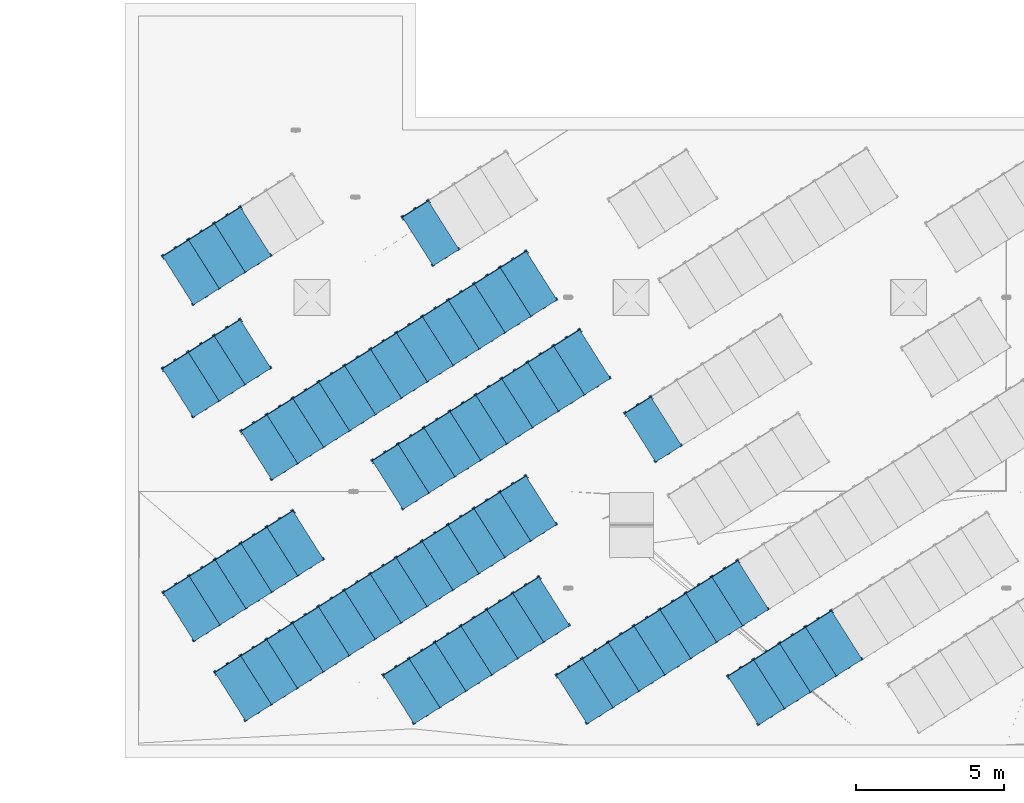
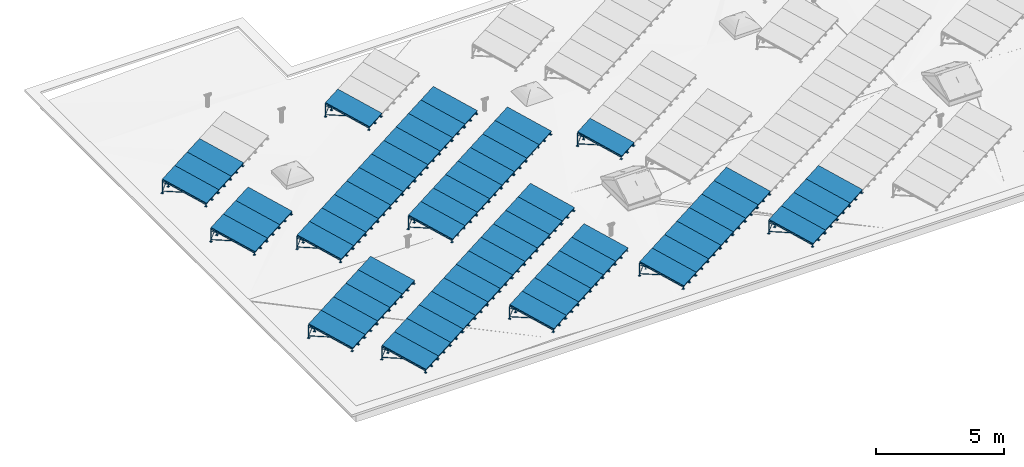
# One storey, part 1 of 9: 61 discrete accessories.
"""IFC2X3 building model written with IfcOpenShell, lengths in millimetres."""

from ifc_helpers import new_model, entity, si_unit, converted_unit, derived_unit, money_unit, direction, frame, origin_with_axes, place, context, subcontext, project, spatial, open_shell, faceted_brep, surface_model, source, transform, mapped, type_object, element, save


model = new_model("IFC2X3")

# Units and contexts
model_context = context("Model", 3, precision=0.01, world=origin_with_axes(), true_north=direction((0.0, 1.0)))
body_context = subcontext(model_context, "Body", "Model", "MODEL_VIEW")
ifc_project = project(units=[si_unit("LENGTHUNIT", "METRE", prefix="MILLI"), si_unit("AREAUNIT", "SQUARE_METRE"), si_unit("VOLUMEUNIT", "CUBIC_METRE"), converted_unit("PLANEANGLEUNIT", "DEGREE", entity("IfcPlaneAngleMeasure", 0.0174532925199), si_unit("PLANEANGLEUNIT", "RADIAN"), dimensions=[0, 0, 0, 0, 0, 0, 0]), si_unit("SOLIDANGLEUNIT", "STERADIAN"), money_unit("EUR"), converted_unit("TIMEUNIT", "Year", entity("IfcTimeMeasure", 31556926.0), si_unit("TIMEUNIT", "SECOND"), dimensions=[0, 0, 1, 0, 0, 0, 0]), si_unit("MASSUNIT", "GRAM", prefix="KILO"), si_unit("THERMODYNAMICTEMPERATUREUNIT", "DEGREE_CELSIUS"), si_unit("LUMINOUSINTENSITYUNIT", "LUMEN"), si_unit("ENERGYUNIT", "JOULE", prefix="MEGA"), derived_unit("THERMALCONDUCTANCEUNIT", [(si_unit("POWERUNIT", "WATT"), 1), (si_unit("LENGTHUNIT", "METRE"), -1), (si_unit("THERMODYNAMICTEMPERATUREUNIT", "KELVIN"), -1)]), derived_unit("SPECIFICHEATCAPACITYUNIT", [(si_unit("ENERGYUNIT", "JOULE"), 1), (si_unit("MASSUNIT", "GRAM", prefix="KILO"), -1), (si_unit("THERMODYNAMICTEMPERATUREUNIT", "KELVIN"), -1)]), derived_unit("MASSDENSITYUNIT", [(si_unit("MASSUNIT", "GRAM", prefix="KILO"), 1), (si_unit("VOLUMEUNIT", "CUBIC_METRE"), -1)])], contexts=[model_context])

# Site, building, storey
site_placement = place(None, origin_with_axes())
site = spatial("IfcSite", under=ifc_project, at=site_placement, Name="KIRDE 14, ELVA", CompositionType="ELEMENT")
building_placement = place(site_placement, origin_with_axes())
building = spatial("IfcBuilding", under=site, at=building_placement, Name="PPA ja Päästeameti ühishoone", CompositionType="ELEMENT")
storey_placement = place(building_placement, frame((0.0, 0.0, 7700.0), z_axis=(0.0, 0.0, 1.0), x_axis=(1.0, 0.0, 0.0)))
storey = spatial("IfcBuildingStorey", under=building, at=storey_placement, Name="Katusekorrus", CompositionType="ELEMENT", Elevation=7700.0)

# Discrete accessories
discrete_accessory_type = type_object("IfcDiscreteAccessoryType", Name="Solar Collector Flat Plate 24")
shared_shape = source(origin_with_axes(), body_context, "Body", "SurfaceModel", [
    surface_model("IfcShellBasedSurfaceModel", [(0.0, 1835.04380685, 600.253058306), (50.0, 1835.04380685, 600.253058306), (50.0, 1825.4978653, 604.20711676), (0.0, 1825.4978653, 604.20711676), (0.0, 1844.58974839, 604.20711676), (50.0, 1844.58974839, 604.20711676), (50.0, 1821.54380685, 613.753058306), (0.0, 1821.54380685, 613.753058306), (0.0, 1848.54380685, 613.753058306), (50.0, 1848.54380685, 613.753058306), (50.0, 1825.4978653, 623.298999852), (0.0, 1825.4978653, 623.298999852), (0.0, 1844.58974839, 623.298999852), (50.0, 1844.58974839, 623.298999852), (50.0, 1835.04380685, 627.253058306), (0.0, 1835.04380685, 627.253058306)], [open_shell([[[0, 1, 2, 3]], [[4, 5, 1, 0]], [[3, 2, 6, 7]], [[8, 9, 5, 4]], [[7, 6, 10, 11]], [[12, 13, 9, 8]], [[11, 10, 14, 15]], [[15, 14, 13, 12]]])]),
    surface_model("IfcShellBasedSurfaceModel", [(-1035.0, 1835.04380685, 627.253058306), (-1085.0, 1835.04380685, 627.253058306), (-1085.0, 1825.4978653, 623.298999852), (-1035.0, 1825.4978653, 623.298999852), (-1035.0, 1844.58974839, 623.298999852), (-1085.0, 1844.58974839, 623.298999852), (-1085.0, 1821.54380685, 613.753058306), (-1035.0, 1821.54380685, 613.753058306), (-1035.0, 1848.54380685, 613.753058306), (-1085.0, 1848.54380685, 613.753058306), (-1085.0, 1825.4978653, 604.20711676), (-1035.0, 1825.4978653, 604.20711676), (-1035.0, 1844.58974839, 604.20711676), (-1085.0, 1844.58974839, 604.20711676), (-1085.0, 1835.04380685, 600.253058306), (-1035.0, 1835.04380685, 600.253058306)], [open_shell([[[0, 1, 2, 3]], [[4, 5, 1, 0]], [[3, 2, 6, 7]], [[8, 9, 5, 4]], [[7, 6, 10, 11]], [[12, 13, 9, 8]], [[11, 10, 14, 15]], [[15, 14, 13, 12]]])]),
    faceted_brep([(0.0, -2.6969384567, 96.4852813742), (-1035.0, -2.6969384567, 96.4852813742), (-1035.0, 28.6956508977, 104.89690034), (0.0, 28.6956508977, 104.89690034), (0.0, -15.1202526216, 142.849721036), (-1035.0, -15.1202526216, 142.849721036), (-1035.0, 16.2723367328, 151.261340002), (0.0, 16.2723367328, 151.261340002)], [[[0, 1, 2, 3]], [[4, 5, 1, 0]], [[1, 5, 6, 2]], [[3, 2, 6, 7]], [[0, 3, 7, 4]], [[7, 6, 5, 4]]]),
    faceted_brep([(0.0, 1906.4554572, 608.041124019), (-1035.0, 1906.4554572, 608.041124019), (-1035.0, 1937.84804656, 616.452742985), (0.0, 1937.84804656, 616.452742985), (0.0, 1894.03214304, 654.405563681), (-1035.0, 1894.03214304, 654.405563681), (-1035.0, 1925.42473239, 662.817182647), (0.0, 1925.42473239, 662.817182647)], [[[0, 1, 2, 3]], [[4, 5, 1, 0]], [[1, 5, 6, 2]], [[3, 2, 6, 7]], [[0, 3, 7, 4]], [[7, 6, 5, 4]]]),
    faceted_brep([(-1002.5, 1925.42473239, 662.817182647), (-32.5, 1925.42473239, 662.817182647), (0.0, 1925.42473239, 662.817182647), (0.0, -15.1202526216, 142.849721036), (-1035.0, -15.1202526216, 142.849721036), (-1035.0, 1925.42473239, 662.817182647), (-1002.5, 1894.03214304, 654.405563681), (-1002.5, 16.2723367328, 151.261340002), (-32.5, 16.2723367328, 151.261340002), (-32.5, 1894.03214304, 654.405563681), (-1035.0, 1918.69543722, 687.931254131), (0.0, 1918.69543722, 687.931254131), (0.0, -21.8495477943, 167.96379252), (-1035.0, -21.8495477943, 167.96379252), (-1002.5, 1906.4554572, 608.041124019), (-1002.5, 28.6956508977, 104.89690034), (-32.5, 28.6956508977, 104.89690034), (-32.5, 1906.4554572, 608.041124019), (-70.0, 45.7652600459, 186.081125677), (-965.0, 45.7652600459, 186.081125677), (-965.0, 1851.08062938, 669.813920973), (-70.0, 1851.08062938, 669.813920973), (-70.0, 58.1885742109, 139.716686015), (-965.0, 58.1885742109, 139.716686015), (-965.0, 1863.50394355, 623.449481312), (-70.0, 1863.50394355, 623.449481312)], [[[0, 1, 2, 3, 4, 5], [6, 7, 8, 9]], [[0, 5, 10, 11, 2, 1]], [[11, 12, 3, 2]], [[13, 4, 3, 12]], [[10, 5, 4, 13]], [[14, 15, 7, 6]], [[15, 16, 8, 7]], [[9, 8, 16, 17]], [[6, 9, 17, 14]], [[13, 12, 11, 10], [18, 19, 20, 21]], [[17, 16, 15, 14]], [[18, 22, 23, 19]], [[19, 23, 24, 20]], [[20, 24, 25, 21]], [[21, 25, 22, 18]], [[24, 23, 22, 25]]]),
    faceted_brep([(-70.0, 47.0593552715, 181.251496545), (-70.0, 45.7652600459, 186.081125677), (-965.0, 45.7652600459, 186.081125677), (-965.0, 47.0593552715, 181.251496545), (-70.0, 1852.37472461, 664.984291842), (-70.0, 1851.08062938, 669.813920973), (-965.0, 1851.08062938, 669.813920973), (-965.0, 1852.37472461, 664.984291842)], [[[0, 1, 2, 3]], [[4, 5, 1, 0]], [[1, 5, 6, 2]], [[3, 2, 6, 7]], [[0, 3, 7, 4]], [[7, 6, 5, 4]]]),
    faceted_brep([(-32.5, 1823.3524639, 620.503058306), (-32.5, 1831.54974974, 626.793056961), (-32.5, 1841.79380685, 625.444401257), (-32.5, 1848.0838055, 617.247115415), (-32.5, 1846.7351498, 607.003058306), (-32.5, 1838.53786396, 600.713059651), (-32.5, 1828.29380685, 602.061715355), (-32.5, 1822.00380819, 610.259001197), (0.0, 1823.3524639, 620.503058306), (0.0, 1831.54974974, 626.793056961), (0.0, 1841.79380685, 625.444401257), (0.0, 1848.0838055, 617.247115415), (0.0, 1846.7351498, 607.003058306), (0.0, 1838.53786396, 600.713059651), (0.0, 1828.29380685, 602.061715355), (0.0, 1822.00380819, 610.259001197)], [[[0, 1, 2, 3, 4, 5, 6, 7]], [[0, 8, 9, 1]], [[1, 9, 10, 2]], [[2, 10, 11, 3]], [[3, 11, 12, 4]], [[4, 12, 13, 5]], [[5, 13, 14, 6]], [[6, 14, 15, 7]], [[7, 15, 8, 0]], [[8, 15, 14, 13, 12, 11, 10, 9]]]),
    faceted_brep([(-1002.5, 1823.3524639, 620.503058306), (-1002.5, 1822.00380819, 610.259001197), (-1002.5, 1828.29380685, 602.061715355), (-1002.5, 1838.53786396, 600.713059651), (-1002.5, 1846.7351498, 607.003058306), (-1002.5, 1848.0838055, 617.247115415), (-1002.5, 1841.79380685, 625.444401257), (-1002.5, 1831.54974974, 626.793056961), (-1035.0, 1823.3524639, 620.503058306), (-1035.0, 1822.00380819, 610.259001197), (-1035.0, 1828.29380685, 602.061715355), (-1035.0, 1838.53786396, 600.713059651), (-1035.0, 1846.7351498, 607.003058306), (-1035.0, 1848.0838055, 617.247115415), (-1035.0, 1841.79380685, 625.444401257), (-1035.0, 1831.54974974, 626.793056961)], [[[0, 1, 2, 3, 4, 5, 6, 7]], [[1, 0, 8, 9]], [[2, 1, 9, 10]], [[3, 2, 10, 11]], [[4, 3, 11, 12]], [[5, 4, 12, 13]], [[6, 5, 13, 14]], [[7, 6, 14, 15]], [[0, 7, 15, 8]], [[8, 15, 14, 13, 12, 11, 10, 9]]]),
    faceted_brep([(-70.0, 58.7062123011, 137.784834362), (-70.0, 54.0474694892, 155.171499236), (-965.0, 54.0474694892, 155.171499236), (-965.0, 58.7062123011, 137.784834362), (-70.0, 1864.02158164, 621.517629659), (-70.0, 1859.36283882, 638.904294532), (-965.0, 1859.36283882, 638.904294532), (-140.0, 121.662277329, 173.288832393), (-895.0, 121.662277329, 173.288832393), (-895.0, 1791.74803098, 620.786961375), (-140.0, 1791.74803098, 620.786961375), (-965.0, 1864.02158164, 621.517629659), (-140.0, 126.321020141, 155.90216752), (-140.0, 1796.4067738, 603.400296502), (-895.0, 1796.4067738, 603.400296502), (-895.0, 126.321020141, 155.90216752)], [[[0, 1, 2, 3]], [[4, 5, 1, 0]], [[1, 5, 6, 2], [7, 8, 9, 10]], [[3, 2, 6, 11]], [[0, 3, 11, 4], [12, 13, 14, 15]], [[11, 6, 5, 4]], [[15, 8, 7, 12]], [[14, 9, 8, 15]], [[13, 10, 9, 14]], [[12, 7, 10, 13]]]),
    surface_model("IfcShellBasedSurfaceModel", [(-140.0, 125.026924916, 160.731796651), (-895.0, 125.026924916, 160.731796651), (-895.0, 1795.11267857, 608.229925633), (-140.0, 1795.11267857, 608.229925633)], [open_shell([[[0, 1, 2, 3]]])]),
    faceted_brep([(0.0, 1944.05970364, 593.270523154), (0.0, 3.51471862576, 73.3030615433), (-24.0, 3.51471862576, 73.3030615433), (-24.0, 1944.05970364, 593.270523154), (0.0, 1937.84804656, 616.452742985), (0.0, -2.6969384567, 96.4852813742), (-24.0, -2.6969384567, 96.4852813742), (-24.0, 1937.84804656, 616.452742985)], [[[0, 1, 2, 3]], [[4, 5, 1, 0]], [[1, 5, 6, 2]], [[3, 2, 6, 7]], [[0, 3, 7, 4]], [[7, 6, 5, 4]]]),
    faceted_brep([(-505.5, 1944.05970364, 593.270523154), (-505.5, 3.51471862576, 73.3030615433), (-529.5, 3.51471862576, 73.3030615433), (-529.5, 1944.05970364, 593.270523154), (-505.5, 1937.84804656, 616.452742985), (-505.5, -2.6969384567, 96.4852813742), (-529.5, -2.6969384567, 96.4852813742), (-529.5, 1937.84804656, 616.452742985)], [[[0, 1, 2, 3]], [[4, 5, 1, 0]], [[1, 5, 6, 2]], [[3, 2, 6, 7]], [[0, 3, 7, 4]], [[7, 6, 5, 4]]]),
    faceted_brep([(-1011.0, 1944.05970364, 593.270523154), (-1011.0, 3.51471862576, 73.3030615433), (-1035.0, 3.51471862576, 73.3030615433), (-1035.0, 1944.05970364, 593.270523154), (-1011.0, 1937.84804656, 616.452742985), (-1011.0, -2.6969384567, 96.4852813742), (-1035.0, -2.6969384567, 96.4852813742), (-1035.0, 1937.84804656, 616.452742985)], [[[0, 1, 2, 3]], [[4, 5, 1, 0]], [[1, 5, 6, 2]], [[3, 2, 6, 7]], [[0, 3, 7, 4]], [[7, 6, 5, 4]]]),
    faceted_brep([(0.0, 24.0, 52.0), (0.0, 24.0, 88.0), (5.0, 24.0, 88.0), (5.0, 24.0, 5.0), (-29.0, 24.0, 5.0), (-29.0, 24.0, 88.0), (-24.0, 24.0, 88.0), (-24.0, 24.0, 52.0), (0.0, 0.0, 52.0), (0.0, 0.0, 88.0), (0.0, 3.51471862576, 96.4852813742), (0.0, 12.0, 100.0), (0.0, 20.4852813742, 96.4852813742), (5.0, 20.4852813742, 96.4852813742), (5.0, 12.0, 100.0), (5.0, 3.51471862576, 96.4852813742), (5.0, 0.0, 88.0), (5.0, 0.0, 5.0), (-29.0, 0.0, 5.0), (-29.0, 12.0, 100.0), (-29.0, 20.4852813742, 96.4852813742), (-29.0, 0.0, 88.0), (-29.0, 3.51471862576, 96.4852813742), (-24.0, 20.4852813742, 96.4852813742), (-24.0, 12.0, 100.0), (-24.0, 3.51471862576, 96.4852813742), (-24.0, 0.0, 88.0), (-24.0, 0.0, 52.0)], [[[0, 1, 2, 3, 4, 5, 6, 7]], [[0, 8, 9, 10, 11, 12, 1]], [[12, 13, 2, 1]], [[13, 14, 15, 16, 17, 3, 2]], [[3, 17, 18, 4]], [[19, 20, 5, 4, 18, 21, 22]], [[6, 5, 20, 23]], [[23, 24, 25, 26, 27, 7, 6]], [[7, 27, 8, 0]], [[8, 27, 26, 21, 18, 17, 16, 9]], [[9, 16, 15, 10]], [[10, 15, 14, 11]], [[11, 14, 13, 12]], [[23, 20, 19, 24]], [[25, 22, 21, 26]], [[24, 19, 22, 25]]]),
    faceted_brep([(38.0, -38.0, 0.0), (38.0, -38.0, 5.0), (-62.0, -38.0, 5.0), (-62.0, -38.0, 0.0), (38.0, 62.0, 0.0), (38.0, 62.0, 5.0), (-62.0, 62.0, 5.0), (-62.0, 62.0, 0.0)], [[[0, 1, 2, 3]], [[4, 5, 1, 0]], [[1, 5, 6, 2]], [[3, 2, 6, 7]], [[0, 3, 7, 4]], [[7, 6, 5, 4]]]),
    faceted_brep([(-505.5, 24.0, 52.0), (-505.5, 24.0, 88.0), (-500.5, 24.0, 88.0), (-500.5, 24.0, 5.0), (-534.5, 24.0, 5.0), (-534.5, 24.0, 88.0), (-529.5, 24.0, 88.0), (-529.5, 24.0, 52.0), (-505.5, 0.0, 52.0), (-505.5, 0.0, 88.0), (-505.5, 3.51471862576, 96.4852813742), (-505.5, 12.0, 100.0), (-505.5, 20.4852813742, 96.4852813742), (-500.5, 20.4852813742, 96.4852813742), (-500.5, 12.0, 100.0), (-500.5, 3.51471862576, 96.4852813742), (-500.5, 0.0, 88.0), (-500.5, 0.0, 5.0), (-534.5, 0.0, 5.0), (-534.5, 12.0, 100.0), (-534.5, 20.4852813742, 96.4852813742), (-534.5, 0.0, 88.0), (-534.5, 3.51471862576, 96.4852813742), (-529.5, 20.4852813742, 96.4852813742), (-529.5, 12.0, 100.0), (-529.5, 3.51471862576, 96.4852813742), (-529.5, 0.0, 88.0), (-529.5, 0.0, 52.0)], [[[0, 1, 2, 3, 4, 5, 6, 7]], [[0, 8, 9, 10, 11, 12, 1]], [[12, 13, 2, 1]], [[13, 14, 15, 16, 17, 3, 2]], [[3, 17, 18, 4]], [[19, 20, 5, 4, 18, 21, 22]], [[6, 5, 20, 23]], [[23, 24, 25, 26, 27, 7, 6]], [[7, 27, 8, 0]], [[8, 27, 26, 21, 18, 17, 16, 9]], [[9, 16, 15, 10]], [[10, 15, 14, 11]], [[11, 14, 13, 12]], [[23, 20, 19, 24]], [[25, 22, 21, 26]], [[24, 19, 22, 25]]]),
    faceted_brep([(-467.5, -38.0, 0.0), (-467.5, -38.0, 5.0), (-567.5, -38.0, 5.0), (-567.5, -38.0, 0.0), (-467.5, 62.0, 0.0), (-467.5, 62.0, 5.0), (-567.5, 62.0, 5.0), (-567.5, 62.0, 0.0)], [[[0, 1, 2, 3]], [[4, 5, 1, 0]], [[1, 5, 6, 2]], [[3, 2, 6, 7]], [[0, 3, 7, 4]], [[7, 6, 5, 4]]]),
    faceted_brep([(-1011.0, 24.0, 52.0), (-1011.0, 24.0, 88.0), (-1006.0, 24.0, 88.0), (-1006.0, 24.0, 5.0), (-1040.0, 24.0, 5.0), (-1040.0, 24.0, 88.0), (-1035.0, 24.0, 88.0), (-1035.0, 24.0, 52.0), (-1011.0, 0.0, 52.0), (-1011.0, 0.0, 88.0), (-1011.0, 3.51471862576, 96.4852813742), (-1011.0, 12.0, 100.0), (-1011.0, 20.4852813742, 96.4852813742), (-1006.0, 20.4852813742, 96.4852813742), (-1006.0, 12.0, 100.0), (-1006.0, 3.51471862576, 96.4852813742), (-1006.0, 0.0, 88.0), (-1006.0, 0.0, 5.0), (-1040.0, 0.0, 5.0), (-1040.0, 12.0, 100.0), (-1040.0, 20.4852813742, 96.4852813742), (-1040.0, 0.0, 88.0), (-1040.0, 3.51471862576, 96.4852813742), (-1035.0, 20.4852813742, 96.4852813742), (-1035.0, 12.0, 100.0), (-1035.0, 3.51471862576, 96.4852813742), (-1035.0, 0.0, 88.0), (-1035.0, 0.0, 52.0)], [[[0, 1, 2, 3, 4, 5, 6, 7]], [[0, 8, 9, 10, 11, 12, 1]], [[12, 13, 2, 1]], [[13, 14, 15, 16, 17, 3, 2]], [[3, 17, 18, 4]], [[19, 20, 5, 4, 18, 21, 22]], [[6, 5, 20, 23]], [[23, 24, 25, 26, 27, 7, 6]], [[7, 27, 8, 0]], [[8, 27, 26, 21, 18, 17, 16, 9]], [[9, 16, 15, 10]], [[10, 15, 14, 11]], [[11, 14, 13, 12]], [[23, 20, 19, 24]], [[25, 22, 21, 26]], [[24, 19, 22, 25]]]),
    faceted_brep([(-973.0, -38.0, 0.0), (-973.0, -38.0, 5.0), (-1073.0, -38.0, 5.0), (-1073.0, -38.0, 0.0), (-973.0, 62.0, 0.0), (-973.0, 62.0, 5.0), (-1073.0, 62.0, 5.0), (-1073.0, 62.0, 0.0)], [[[0, 1, 2, 3]], [[4, 5, 1, 0]], [[1, 5, 6, 2]], [[3, 2, 6, 7]], [[0, 3, 7, 4]], [[7, 6, 5, 4]]]),
    faceted_brep([(0.0, 1941.36276518, 565.755804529), (0.0, 1941.36276518, 601.755804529), (5.0, 1941.36276518, 601.755804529), (5.0, 1941.36276518, 5.0), (-29.0, 1941.36276518, 5.0), (-29.0, 1941.36276518, 601.755804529), (-24.0, 1941.36276518, 601.755804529), (-24.0, 1941.36276518, 565.755804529), (0.0, 1917.36276518, 565.755804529), (0.0, 1917.36276518, 601.755804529), (0.0, 1920.87748381, 610.241085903), (0.0, 1929.36276518, 613.755804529), (0.0, 1937.84804656, 610.241085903), (5.0, 1937.84804656, 610.241085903), (5.0, 1929.36276518, 613.755804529), (5.0, 1920.87748381, 610.241085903), (5.0, 1917.36276518, 601.755804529), (5.0, 1917.36276518, 5.0), (-29.0, 1917.36276518, 5.0), (-29.0, 1929.36276518, 613.755804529), (-29.0, 1937.84804656, 610.241085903), (-29.0, 1917.36276518, 601.755804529), (-29.0, 1920.87748381, 610.241085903), (-24.0, 1937.84804656, 610.241085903), (-24.0, 1929.36276518, 613.755804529), (-24.0, 1920.87748381, 610.241085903), (-24.0, 1917.36276518, 601.755804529), (-24.0, 1917.36276518, 565.755804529)], [[[0, 1, 2, 3, 4, 5, 6, 7]], [[0, 8, 9, 10, 11, 12, 1]], [[12, 13, 2, 1]], [[13, 14, 15, 16, 17, 3, 2]], [[3, 17, 18, 4]], [[19, 20, 5, 4, 18, 21, 22]], [[6, 5, 20, 23]], [[23, 24, 25, 26, 27, 7, 6]], [[7, 27, 8, 0]], [[8, 27, 26, 21, 18, 17, 16, 9]], [[9, 16, 15, 10]], [[10, 15, 14, 11]], [[11, 14, 13, 12]], [[23, 20, 19, 24]], [[25, 22, 21, 26]], [[24, 19, 22, 25]]]),
    faceted_brep([(38.0, 1879.36276518, 0.0), (38.0, 1879.36276518, 5.0), (-62.0, 1879.36276518, 5.0), (-62.0, 1879.36276518, 0.0), (38.0, 1979.36276518, 0.0), (38.0, 1979.36276518, 5.0), (-62.0, 1979.36276518, 5.0), (-62.0, 1979.36276518, 0.0)], [[[0, 1, 2, 3]], [[4, 5, 1, 0]], [[1, 5, 6, 2]], [[3, 2, 6, 7]], [[0, 3, 7, 4]], [[7, 6, 5, 4]]]),
    faceted_brep([(-505.5, 1941.36276518, 565.755804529), (-505.5, 1941.36276518, 601.755804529), (-500.5, 1941.36276518, 601.755804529), (-500.5, 1941.36276518, 5.0), (-534.5, 1941.36276518, 5.0), (-534.5, 1941.36276518, 601.755804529), (-529.5, 1941.36276518, 601.755804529), (-529.5, 1941.36276518, 565.755804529), (-505.5, 1917.36276518, 565.755804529), (-505.5, 1917.36276518, 601.755804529), (-505.5, 1920.87748381, 610.241085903), (-505.5, 1929.36276518, 613.755804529), (-505.5, 1937.84804656, 610.241085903), (-500.5, 1937.84804656, 610.241085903), (-500.5, 1929.36276518, 613.755804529), (-500.5, 1920.87748381, 610.241085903), (-500.5, 1917.36276518, 601.755804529), (-500.5, 1917.36276518, 5.0), (-534.5, 1917.36276518, 5.0), (-534.5, 1929.36276518, 613.755804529), (-534.5, 1937.84804656, 610.241085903), (-534.5, 1917.36276518, 601.755804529), (-534.5, 1920.87748381, 610.241085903), (-529.5, 1937.84804656, 610.241085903), (-529.5, 1929.36276518, 613.755804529), (-529.5, 1920.87748381, 610.241085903), (-529.5, 1917.36276518, 601.755804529), (-529.5, 1917.36276518, 565.755804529)], [[[0, 1, 2, 3, 4, 5, 6, 7]], [[0, 8, 9, 10, 11, 12, 1]], [[12, 13, 2, 1]], [[13, 14, 15, 16, 17, 3, 2]], [[3, 17, 18, 4]], [[19, 20, 5, 4, 18, 21, 22]], [[6, 5, 20, 23]], [[23, 24, 25, 26, 27, 7, 6]], [[7, 27, 8, 0]], [[8, 27, 26, 21, 18, 17, 16, 9]], [[9, 16, 15, 10]], [[10, 15, 14, 11]], [[11, 14, 13, 12]], [[23, 20, 19, 24]], [[25, 22, 21, 26]], [[24, 19, 22, 25]]]),
    faceted_brep([(-467.5, 1879.36276518, 0.0), (-467.5, 1879.36276518, 5.0), (-567.5, 1879.36276518, 5.0), (-567.5, 1879.36276518, 0.0), (-467.5, 1979.36276518, 0.0), (-467.5, 1979.36276518, 5.0), (-567.5, 1979.36276518, 5.0), (-567.5, 1979.36276518, 0.0)], [[[0, 1, 2, 3]], [[4, 5, 1, 0]], [[1, 5, 6, 2]], [[3, 2, 6, 7]], [[0, 3, 7, 4]], [[7, 6, 5, 4]]]),
    faceted_brep([(-1011.0, 1941.36276518, 565.755804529), (-1011.0, 1941.36276518, 601.755804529), (-1006.0, 1941.36276518, 601.755804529), (-1006.0, 1941.36276518, 5.0), (-1040.0, 1941.36276518, 5.0), (-1040.0, 1941.36276518, 601.755804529), (-1035.0, 1941.36276518, 601.755804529), (-1035.0, 1941.36276518, 565.755804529), (-1011.0, 1917.36276518, 565.755804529), (-1011.0, 1917.36276518, 601.755804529), (-1011.0, 1920.87748381, 610.241085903), (-1011.0, 1929.36276518, 613.755804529), (-1011.0, 1937.84804656, 610.241085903), (-1006.0, 1937.84804656, 610.241085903), (-1006.0, 1929.36276518, 613.755804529), (-1006.0, 1920.87748381, 610.241085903), (-1006.0, 1917.36276518, 601.755804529), (-1006.0, 1917.36276518, 5.0), (-1040.0, 1917.36276518, 5.0), (-1040.0, 1929.36276518, 613.755804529), (-1040.0, 1937.84804656, 610.241085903), (-1040.0, 1917.36276518, 601.755804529), (-1040.0, 1920.87748381, 610.241085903), (-1035.0, 1937.84804656, 610.241085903), (-1035.0, 1929.36276518, 613.755804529), (-1035.0, 1920.87748381, 610.241085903), (-1035.0, 1917.36276518, 601.755804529), (-1035.0, 1917.36276518, 565.755804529)], [[[0, 1, 2, 3, 4, 5, 6, 7]], [[0, 8, 9, 10, 11, 12, 1]], [[12, 13, 2, 1]], [[13, 14, 15, 16, 17, 3, 2]], [[3, 17, 18, 4]], [[19, 20, 5, 4, 18, 21, 22]], [[6, 5, 20, 23]], [[23, 24, 25, 26, 27, 7, 6]], [[7, 27, 8, 0]], [[8, 27, 26, 21, 18, 17, 16, 9]], [[9, 16, 15, 10]], [[10, 15, 14, 11]], [[11, 14, 13, 12]], [[23, 20, 19, 24]], [[25, 22, 21, 26]], [[24, 19, 22, 25]]]),
    faceted_brep([(-973.0, 1879.36276518, 0.0), (-973.0, 1879.36276518, 5.0), (-1073.0, 1879.36276518, 5.0), (-1073.0, 1879.36276518, 0.0), (-973.0, 1979.36276518, 0.0), (-973.0, 1979.36276518, 5.0), (-1073.0, 1979.36276518, 5.0), (-1073.0, 1979.36276518, 0.0)], [[[0, 1, 2, 3]], [[4, 5, 1, 0]], [[1, 5, 6, 2]], [[3, 2, 6, 7]], [[0, 3, 7, 4]], [[7, 6, 5, 4]]]),
    faceted_brep([(-24.0, 1917.36276518, 90.7920761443), (0.0, 1917.36276518, 90.7920761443), (0.0, 993.073687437, 338.454588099), (-24.0, 993.073687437, 338.454588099), (-24.0, 1917.36276518, 115.638704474), (0.0, 1917.36276518, 115.638704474), (0.0, 1039.4381271, 350.877902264), (-24.0, 1039.4381271, 350.877902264)], [[[0, 1, 2, 3]], [[1, 0, 4, 5]], [[1, 5, 6, 2]], [[2, 6, 7, 3]], [[4, 0, 3, 7]], [[5, 4, 7, 6]]]),
    faceted_brep([(-529.5, 1917.36276518, 90.7920761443), (-505.5, 1917.36276518, 90.7920761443), (-505.5, 993.073687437, 338.454588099), (-529.5, 993.073687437, 338.454588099), (-529.5, 1917.36276518, 115.638704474), (-505.5, 1917.36276518, 115.638704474), (-505.5, 1039.4381271, 350.877902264), (-529.5, 1039.4381271, 350.877902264)], [[[0, 1, 2, 3]], [[1, 0, 4, 5]], [[1, 5, 6, 2]], [[2, 6, 7, 3]], [[4, 0, 3, 7]], [[5, 4, 7, 6]]]),
    faceted_brep([(-1035.0, 1917.36276518, 90.7920761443), (-1011.0, 1917.36276518, 90.7920761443), (-1011.0, 993.073687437, 338.454588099), (-1035.0, 993.073687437, 338.454588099), (-1035.0, 1917.36276518, 115.638704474), (-1011.0, 1917.36276518, 115.638704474), (-1011.0, 1039.4381271, 350.877902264), (-1035.0, 1039.4381271, 350.877902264)], [[[0, 1, 2, 3]], [[1, 0, 4, 5]], [[1, 5, 6, 2]], [[2, 6, 7, 3]], [[4, 0, 3, 7]], [[5, 4, 7, 6]]]),
    faceted_brep([(-29.0, 1929.36276518, 98.4074259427), (-29.0, 1929.36276518, 129.421846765), (-500.5, 1929.36276518, 515.348378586), (-500.5, 1929.36276518, 484.333957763), (-29.0, 1941.36276518, 98.4074259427), (-29.0, 1941.36276518, 129.421846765), (-500.5, 1941.36276518, 515.348378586), (-500.5, 1941.36276518, 484.333957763)], [[[0, 1, 2, 3]], [[1, 0, 4, 5]], [[1, 5, 6, 2]], [[2, 6, 7, 3]], [[4, 0, 3, 7]], [[5, 4, 7, 6]]]),
    faceted_brep([(-500.5, 1917.36276518, 129.421846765), (-500.5, 1917.36276518, 98.4074259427), (-29.0, 1917.36276518, 484.333957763), (-29.0, 1917.36276518, 515.348378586), (-500.5, 1929.36276518, 129.421846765), (-500.5, 1929.36276518, 98.4074259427), (-29.0, 1929.36276518, 484.333957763), (-29.0, 1929.36276518, 515.348378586)], [[[0, 1, 2, 3]], [[0, 4, 5, 1]], [[1, 5, 6, 2]], [[3, 2, 6, 7]], [[4, 0, 3, 7]], [[5, 4, 7, 6]]]),
    faceted_brep([(-534.5, 1929.36276518, 98.4074259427), (-534.5, 1929.36276518, 129.421846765), (-1006.0, 1929.36276518, 515.348378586), (-1006.0, 1929.36276518, 484.333957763), (-534.5, 1941.36276518, 98.4074259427), (-534.5, 1941.36276518, 129.421846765), (-1006.0, 1941.36276518, 515.348378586), (-1006.0, 1941.36276518, 484.333957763)], [[[0, 1, 2, 3]], [[1, 0, 4, 5]], [[1, 5, 6, 2]], [[2, 6, 7, 3]], [[4, 0, 3, 7]], [[5, 4, 7, 6]]]),
    faceted_brep([(-1006.0, 1917.36276518, 129.421846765), (-1006.0, 1917.36276518, 98.4074259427), (-534.5, 1917.36276518, 484.333957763), (-534.5, 1917.36276518, 515.348378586), (-1006.0, 1929.36276518, 129.421846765), (-1006.0, 1929.36276518, 98.4074259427), (-534.5, 1929.36276518, 484.333957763), (-534.5, 1929.36276518, 515.348378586)], [[[0, 1, 2, 3]], [[0, 4, 5, 1]], [[1, 5, 6, 2]], [[3, 2, 6, 7]], [[4, 0, 3, 7]], [[5, 4, 7, 6]]]),
])
for number, where, z_axis, x_axis in (
    (1, (8857.60349759, 11720.0661448, 0.0), (0.0, 0.0, 1.0), (0.845542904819, 0.533907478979, 0.0)),
    (2, (4460.03059191, 16522.8938243, 0.0), (0.0, 0.0, 1.0), (0.845542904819, 0.533907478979, 0.0)),
    (3, (5346.91084474, 1923.6632116, 0.0), (0.0, 0.0, 1.0), (0.845542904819, 0.533907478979, 0.0)),
    (4, (2702.12820968, 11623.0783679, 0.0), (0.0, 0.0, 1.0), (0.845542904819, 0.533907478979, 0.0)),
    (5, (12358.1511238, 13930.4431069, 0.0), (0.0, 0.0, 1.0), (0.845542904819, 0.533907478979, 0.0)),
    (6, (23540.8156115, 2342.67301014, 0.0), (0.0, 0.0, 1.0), (0.845542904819, 0.533907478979, 0.0)),
    (7, (10159.363825, 1272.6585378, 0.0), (0.0, 0.0, 1.0), (0.845542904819, 0.533907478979, 0.0)),
    (8, (22665.6787047, 1790.07876938, 0.0), (0.0, 0.0, 1.0), (0.845542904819, 0.533907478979, 0.0)),
    (9, (16877.942047, 1825.25277854, 0.0), (0.0, 0.0, 1.0), (0.845542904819, 0.533907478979, 0.0)),
    (10, (18628.21586, 2930.44125912, 0.0), (0.0, 0.0, 1.0), (0.845542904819, 0.533907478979, 0.0)),
    (11, (6232.19277781, 10062.2834225, 0.0), (0.0, 0.0, 1.0), (0.845542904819, 0.533907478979, 0.0)),
    (12, (7982.46659037, 11167.471905, 0.0), (0.0, 0.0, 1.0), (0.845542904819, 0.533907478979, 0.0)),
    (13, (12784.7745445, 2930.44125912, 0.0), (0.0, 0.0, 1.0), (0.845542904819, 0.533907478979, 0.0)),
    (14, (4452.40202271, 12728.2668485, 0.0), (0.0, 0.0, 1.0), (0.845542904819, 0.533907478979, 0.0)),
    (15, (13659.9114513, 3483.03549988, 0.0), (0.0, 0.0, 1.0), (0.845542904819, 0.533907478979, 0.0)),
    (16, (7107.32968502, 10614.8776642, 0.0), (0.0, 0.0, 1.0), (0.845542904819, 0.533907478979, 0.0)),
    (17, (16002.8051405, 1272.6585378, 0.0), (0.0, 0.0, 1.0), (0.845542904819, 0.533907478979, 0.0)),
    (18, (21253.6265798, 4588.22398139, 0.0), (0.0, 0.0, 1.0), (0.845542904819, 0.533907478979, 0.0)),
    (19, (4471.77393825, 1371.06897085, 0.0), (0.0, 0.0, 1.0), (0.845542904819, 0.533907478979, 0.0)),
    (20, (24415.9525173, 2895.26725089, 0.0), (0.0, 0.0, 1.0), (0.845542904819, 0.533907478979, 0.0)),
    (21, (17753.0789532, 2377.84701837, 0.0), (0.0, 0.0, 1.0), (0.845542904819, 0.533907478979, 0.0)),
    (22, (5357.05587153, 9509.6891827, 0.0), (0.0, 0.0, 1.0), (0.845542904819, 0.533907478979, 0.0)),
    (23, (20378.4896726, 4035.62974063, 0.0), (0.0, 0.0, 1.0), (0.845542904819, 0.533907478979, 0.0)),
    (24, (19503.3527667, 3483.03549988, 0.0), (0.0, 0.0, 1.0), (0.845542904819, 0.533907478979, 0.0)),
    (25, (10803.1891071, 16738.3918243, 0.0), (0.0, 0.0, 1.0), (0.845542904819, 0.533907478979, 0.0)),
    (26, (3577.26511643, 12175.6726087, 0.0), (0.0, 0.0, 1.0), (0.845542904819, 0.533907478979, 0.0)),
    (27, (5357.0558726, 5719.87917147, 0.0), (0.0, 0.0, 1.0), (0.845542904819, 0.533907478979, 0.0)),
    (28, (4481.91896585, 5167.28493072, 0.0), (0.0, 0.0, 1.0), (0.845542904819, 0.533907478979, 0.0)),
    (29, (3606.7820591, 4614.69069089, 0.0), (0.0, 0.0, 1.0), (0.845542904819, 0.533907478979, 0.0)),
    (30, (2731.64515329, 4062.09645107, 0.0), (0.0, 0.0, 1.0), (0.845542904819, 0.533907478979, 0.0)),
    (31, (18318.1130137, 10114.1663871, 0.0), (0.0, 0.0, 1.0), (0.845542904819, 0.533907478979, 0.0)),
    (32, (13233.288032, 14483.0373485, 0.0), (0.0, 0.0, 1.0), (0.845542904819, 0.533907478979, 0.0)),
    (33, (14108.4249378, 15035.6315884, 0.0), (0.0, 0.0, 1.0), (0.845542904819, 0.533907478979, 0.0)),
    (34, (11483.0142185, 13377.8488652, 0.0), (0.0, 0.0, 1.0), (0.845542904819, 0.533907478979, 0.0)),
    (35, (9732.74040407, 12272.6603855, 0.0), (0.0, 0.0, 1.0), (0.845542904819, 0.533907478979, 0.0)),
    (36, (14098.279911, 7449.6056182, 0.0), (0.0, 0.0, 1.0), (0.845542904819, 0.533907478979, 0.0)),
    (37, (9785.84525668, 8516.3827701, 0.0), (0.0, 0.0, 1.0), (0.845542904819, 0.533907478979, 0.0)),
    (38, (10660.9821639, 9068.97700993, 0.0), (0.0, 0.0, 1.0), (0.845542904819, 0.533907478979, 0.0)),
    (39, (13223.1430038, 6897.01137745, 0.0), (0.0, 0.0, 1.0), (0.845542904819, 0.533907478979, 0.0)),
    (40, (12411.2559785, 10174.1654905, 0.0), (0.0, 0.0, 1.0), (0.845542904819, 0.533907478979, 0.0)),
    (41, (11536.1190704, 9621.57125067, 0.0), (0.0, 0.0, 1.0), (0.845542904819, 0.533907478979, 0.0)),
    (42, (13286.3928848, 10726.7597303, 0.0), (0.0, 0.0, 1.0), (0.845542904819, 0.533907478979, 0.0)),
    (43, (15911.8036041, 12384.5424535, 0.0), (0.0, 0.0, 1.0), (0.845542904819, 0.533907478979, 0.0)),
    (44, (15036.6666983, 11831.9482137, 0.0), (0.0, 0.0, 1.0), (0.845542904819, 0.533907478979, 0.0)),
    (45, (14161.5297901, 11279.353972, 0.0), (0.0, 0.0, 1.0), (0.845542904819, 0.533907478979, 0.0)),
    (46, (8847.458471, 4134.04017367, 0.0), (0.0, 0.0, 1.0), (0.845542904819, 0.533907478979, 0.0)),
    (47, (7972.32156425, 3581.44593292, 0.0), (0.0, 0.0, 1.0), (0.845542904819, 0.533907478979, 0.0)),
    (48, (7097.18465751, 3028.85169216, 0.0), (0.0, 0.0, 1.0), (0.845542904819, 0.533907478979, 0.0)),
    (49, (6222.04775123, 2476.25745234, 0.0), (0.0, 0.0, 1.0), (0.845542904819, 0.533907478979, 0.0)),
    (50, (12348.0060966, 6344.41713669, 0.0), (0.0, 0.0, 1.0), (0.845542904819, 0.533907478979, 0.0)),
    (51, (11472.8691908, 5791.82289594, 0.0), (0.0, 0.0, 1.0), (0.845542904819, 0.533907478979, 0.0)),
    (52, (10597.732284, 5239.22865518, 0.0), (0.0, 0.0, 1.0), (0.845542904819, 0.533907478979, 0.0)),
    (53, (9722.59537682, 4686.63441443, 0.0), (0.0, 0.0, 1.0), (0.845542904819, 0.533907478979, 0.0)),
    (54, (6232.19277888, 6272.47341316, 0.0), (0.0, 0.0, 1.0), (0.845542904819, 0.533907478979, 0.0)),
    (55, (21790.5417975, 1237.48452863, 0.0), (0.0, 0.0, 1.0), (0.845542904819, 0.533907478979, 0.0)),
    (56, (10607.8773122, 12825.2546253, 0.0), (0.0, 0.0, 1.0), (0.845542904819, 0.533907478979, 0.0)),
    (57, (3584.8936847, 15970.2995826, 0.0), (0.0, 0.0, 1.0), (0.845542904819, 0.533907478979, 0.0)),
    (58, (14535.0483571, 4035.62974063, 0.0), (0.0, 0.0, 1.0), (0.845542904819, 0.533907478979, 0.0)),
    (59, (2709.75677821, 15417.7053419, 0.0), (0.0, 0.0, 1.0), (0.845542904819, 0.533907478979, 0.0)),
    (60, (11034.5007315, 1825.25277854, 0.0), (0.0, 0.0, 1.0), (0.845542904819, 0.533907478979, 0.0)),
    (61, (11909.6376378, 2377.84701837, 0.0), (0.0, 0.0, 1.0), (0.845542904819, 0.533907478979, 0.0)),
):
    element("IfcDiscreteAccessory", number, at=place(storey_placement, frame(where, z_axis=z_axis, x_axis=x_axis)), inside=storey, type_object=discrete_accessory_type, Name="Panasonic WH-UX-09-DE8-1", context=body_context, shape_type="MappedRepresentation", body=[
        mapped(shared_shape, transform((0.0, 0.0, 0.0))),
    ])

save(model, "model.ifc")
